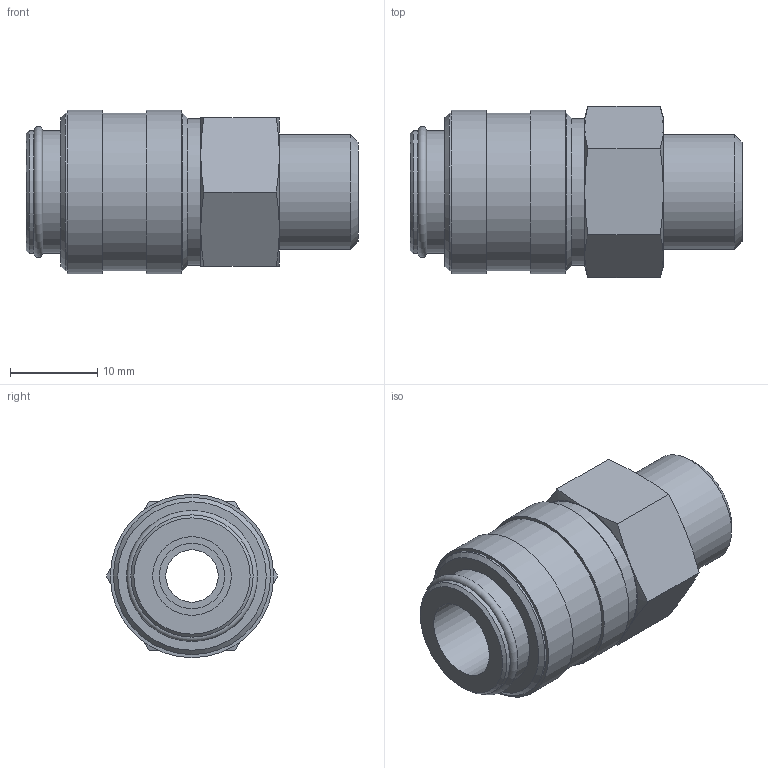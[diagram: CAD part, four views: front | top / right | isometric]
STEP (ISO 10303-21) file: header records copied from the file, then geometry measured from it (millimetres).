
FILE_DESCRIPTION( ( 'STEP AP203' ), ' ' );
FILE_NAME( 'p:/temp/worker_6/2716_2960/app_40_02016041908354424400805192d056f_000000_00_00_000000/format_0/MK2009R1_4.stp', '2016-04-19T06:35:45', ( '' ), ( '' ), ' ', 'PARTsolutions', ' ' );
FILE_SCHEMA( ( 'CONFIG_CONTROL_DESIGN' ) );
Length unit declared in the file: millimetre
Products named in the file (1): _MK2009R1/4
Bounding box: 38 x 19.63 x 18.7 mm (x, y, z)
Volume: 6647.5 mm3; surface area: 3556.3 mm2
Topology: 1 solids, 1 shells, 49 faces, 91 edges, 54 vertices
Faces by surface type: plane 18, cone 17, cylinder 13, torus 1
Full cylindrical faces by diameter (mm): 6 x1, 7 x1, 7.5 x1, 9 x1, 13.157 x1, 14 x2, 16.83 x1, 18 x3, 18.7 x2
Entity records: 1196 total; most frequent: CARTESIAN_POINT 257, DIRECTION 190, ORIENTED_EDGE 144, AXIS2_PLACEMENT_3D 92, EDGE_LOOP 80, EDGE_CURVE 72, FACE_OUTER_BOUND 63, VERTEX_POINT 55
